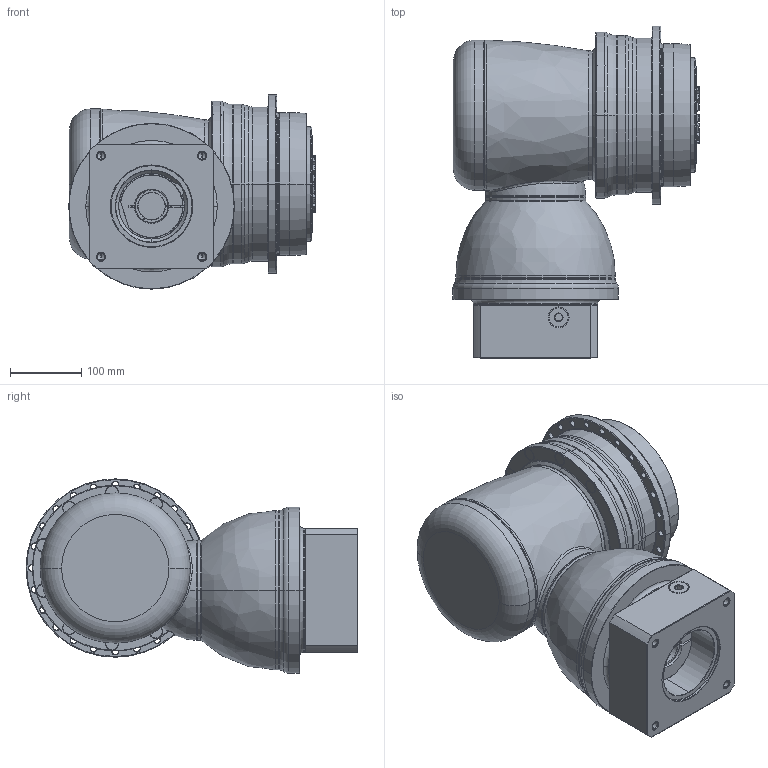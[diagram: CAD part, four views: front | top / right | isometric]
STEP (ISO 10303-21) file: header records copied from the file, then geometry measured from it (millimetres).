
FILE_DESCRIPTION((''),'2;1');
FILE_NAME('APCK200_2ST_38-P0409910201_ASM','2018-05-09T',('d01226'),(''),'PRO/ENGINEER BY PARAMETRIC TECHNOLOGY CORPORATION, 2008410','PRO/ENGINEER BY PARAMETRIC TECHNOLOGY CORPORATION, 2008410','');
FILE_SCHEMA(('CONFIG_CONTROL_DESIGN'));
Length unit declared in the file: millimetre
Products named in the file (13): P1008600002; P1802610011; P0278601003; P0359660103; P1211600001; P1315600001; P1007601001; P1318610201; P0409910201; P0503900012; P0912652001; 21711422019; APCK200_2ST_38-P0409910201_ASM
Assembly tree (12 placements, depth 2):
  APCK200_2ST_38-P0409910201_ASM
    P1008600002
    P1802610011
    P0278601003
    P0359660103
    P1211600001
    P1315600001
    P1007601001
    P1318610201
    P0409910201
    P0503900012
    P0912652001
    21711422019
Bounding box: 345.1 x 464.25 x 271.75 mm (x, y, z)
Volume: 18932050.2 mm3; surface area: 1202438 mm2
Topology: 13 solids, 23 shells, 799 faces, 1872 edges, 1146 vertices
Faces by surface type: cylinder 265, cone 234, plane 152, torus 113, bspline 33, sphere 2
Entity records: 30012 total; most frequent: CARTESIAN_POINT 11075, DIRECTION 4283, ORIENTED_EDGE 3674, AXIS2_PLACEMENT_3D 1874, EDGE_CURVE 1858, VERTEX_POINT 1146, CIRCLE 1073, EDGE_LOOP 924
